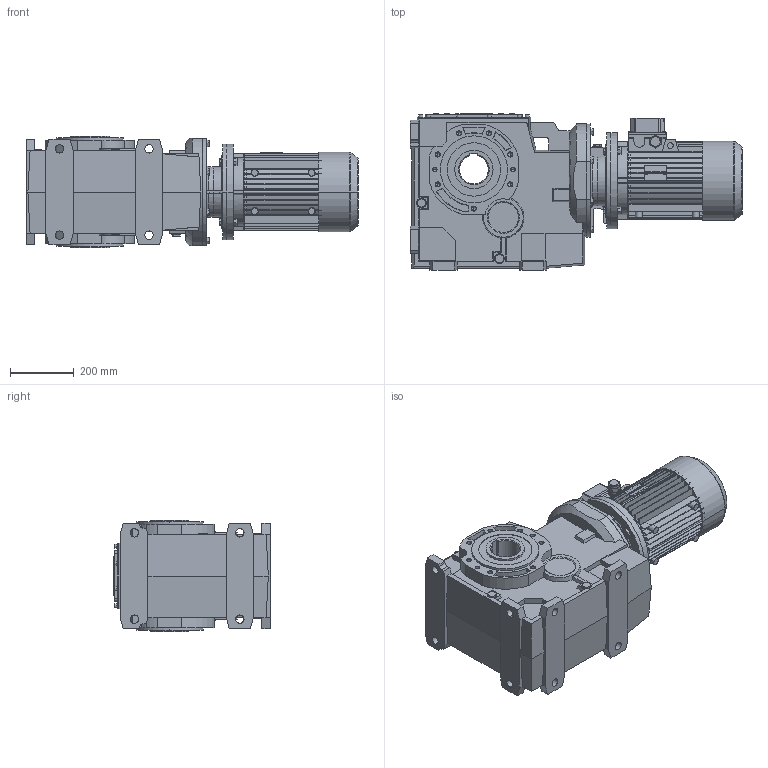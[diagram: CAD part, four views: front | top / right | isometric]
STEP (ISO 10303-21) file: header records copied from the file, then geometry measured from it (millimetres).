
FILE_DESCRIPTION( ( '' ), '1' );
FILE_NAME( '//expscmdclustefs.cadenas.external/client_exchange/iodir/jobs/output/wkb50801731_no0/STEP/B153UC93_05132_B590000000T132ML1_2_03.stp', '2012-11-06T01:31:43', ( '' ), ( '' ), ' ', ' ', ' ' );
FILE_SCHEMA( ( 'CONFIG_CONTROL_DESIGN' ) );
Length unit declared in the file: millimetre
Products named in the file (11): 1; 2; 3; 4; 5; 6; 7; 8; 9; 10; 11
Bounding box: 1039 x 489.5 x 350 mm (x, y, z)
Volume: 84520353.9 mm3; surface area: 3240037.6 mm2
Topology: 11 solids, 11 shells, 2667 faces, 7193 edges, 4691 vertices
Faces by surface type: plane 1425, cylinder 1003, cone 224, torus 9, sphere 6
Entity records: 84972 total; most frequent: CARTESIAN_POINT 15984, DIRECTION 14762, ORIENTED_EDGE 14310, EDGE_CURVE 7155, AXIS2_PLACEMENT_3D 5215, VERTEX_POINT 4691, LINE 4332, VECTOR 4332
